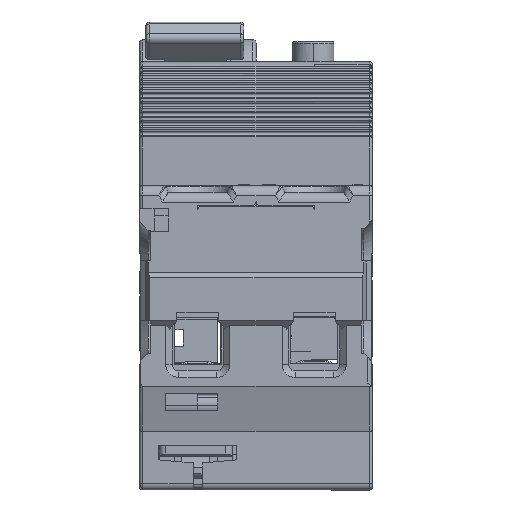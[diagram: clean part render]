
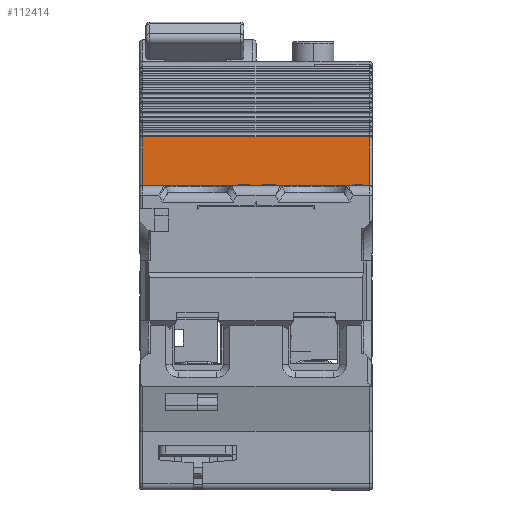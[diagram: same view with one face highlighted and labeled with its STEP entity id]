
A CAD part, front view. The second image highlights one B-rep face of the part: STEP entity #112414.
In plain terms, the highlighted planar face has unit normal (0, -1, 0) as drawn and (-1, 0, 0) by its records, which use the part's own axes.
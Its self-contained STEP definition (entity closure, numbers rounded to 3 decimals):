
#225 = LINE ( 'NONE', #120210, #161209 ) ;
#4721 = EDGE_CURVE ( 'NONE', #113605, #108537, #49438, .T. ) ;
#12876 = CARTESIAN_POINT ( 'NONE',  ( 16.5, 46.5, -17.3 ) ) ;
#18872 = PLANE ( 'NONE',  #42763 ) ;
#20271 = DIRECTION ( 'NONE',  ( 0., 0., -1. ) ) ;
#40575 = ORIENTED_EDGE ( 'NONE', *, *, #153157, .F. ) ;
#42763 = AXIS2_PLACEMENT_3D ( 'NONE', #120253, #75999, #180271 ) ;
#49438 = LINE ( 'NONE', #154680, #173433 ) ;
#54304 = CARTESIAN_POINT ( 'NONE',  ( 16.5, 46.5, -17.3 ) ) ;
#60190 = DIRECTION ( 'NONE',  ( 0., -1., 0. ) ) ;
#70603 = EDGE_CURVE ( 'NONE', #142832, #108537, #95074, .T. ) ;
#73201 = ORIENTED_EDGE ( 'NONE', *, *, #70603, .T. ) ;
#75999 = DIRECTION ( 'NONE',  ( -1., 0., 0. ) ) ;
#76794 = ORIENTED_EDGE ( 'NONE', *, *, #80472, .T. ) ;
#77811 = VERTEX_POINT ( 'NONE', #122654 ) ;
#80472 = EDGE_CURVE ( 'NONE', #113605, #77811, #110432, .T. ) ;
#89787 = FACE_OUTER_BOUND ( 'NONE', #171462, .T. ) ;
#94984 = ORIENTED_EDGE ( 'NONE', *, *, #4721, .F. ) ;
#95074 = LINE ( 'NONE', #155023, #117579 ) ;
#108537 = VERTEX_POINT ( 'NONE', #133125 ) ;
#110432 = LINE ( 'NONE', #54304, #162575 ) ;
#112414 = ADVANCED_FACE ( 'NONE', ( #89787 ), #18872, .T. ) ;
#113605 = VERTEX_POINT ( 'NONE', #12876 ) ;
#114418 = CARTESIAN_POINT ( 'NONE',  ( 16.5, 53.98, 17.3 ) ) ;
#117579 = VECTOR ( 'NONE', #20271, 1000. ) ;
#120210 = CARTESIAN_POINT ( 'NONE',  ( 16.5, 53.98, 17.3 ) ) ;
#120253 = CARTESIAN_POINT ( 'NONE',  ( 16.5, 65.5, -8.9 ) ) ;
#122654 = CARTESIAN_POINT ( 'NONE',  ( 16.5, 46.5, 17.3 ) ) ;
#133125 = CARTESIAN_POINT ( 'NONE',  ( 16.5, 53.98, -17.3 ) ) ;
#139915 = DIRECTION ( 'NONE',  ( 0., 1., 0. ) ) ;
#142832 = VERTEX_POINT ( 'NONE', #114418 ) ;
#153157 = EDGE_CURVE ( 'NONE', #142832, #77811, #225, .T. ) ;
#154680 = CARTESIAN_POINT ( 'NONE',  ( 16.5, 46.5, -17.3 ) ) ;
#155023 = CARTESIAN_POINT ( 'NONE',  ( 16.5, 53.98, 17.3 ) ) ;
#161209 = VECTOR ( 'NONE', #60190, 1000. ) ;
#162575 = VECTOR ( 'NONE', #170437, 1000. ) ;
#170437 = DIRECTION ( 'NONE',  ( 0., 0., 1. ) ) ;
#171462 = EDGE_LOOP ( 'NONE', ( #40575, #73201, #94984, #76794 ) ) ;
#173433 = VECTOR ( 'NONE', #139915, 1000. ) ;
#180271 = DIRECTION ( 'NONE',  ( 0., 0., 1. ) ) ;
